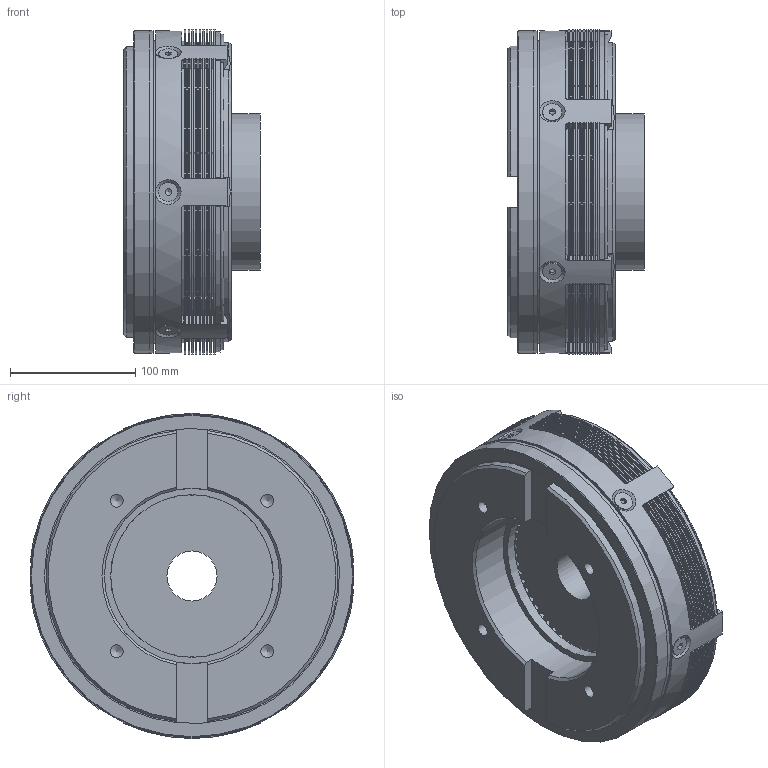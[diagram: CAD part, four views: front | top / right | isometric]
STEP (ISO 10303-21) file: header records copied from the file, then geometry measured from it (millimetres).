
FILE_DESCRIPTION(/* description */ (''),/* implementation_level */ '2;1');
FILE_NAME(/* name */ 'X:\INVENTOR\DISEGNI\05_Friz_Elettmag-Lam\05_02 ECF\05_02_260_01 ECF260\05_02_260_01 ECF260@STEP.stp',/* time_stamp */ '2017-07-12T14:15:10+02:00',/* author */ ('stefano'),/* organization */ (''),/* preprocessor_version */ 'ST-DEVELOPER v16.1',/* originating_system */ 'Autodesk Inventor 2016',/* authorisation */ '');
FILE_SCHEMA (('CONFIG_CONTROL_DESIGN'));
Products named in the file (1): 05_02_260_01 ECF260_Substitute_1
Bounding box: 109 x 259.05 x 260 mm (x, y, z)
Volume: 3434177.9 mm3; surface area: 1213808.8 mm2
Topology: 19 solids, 19 shells, 3774 faces, 11157 edges, 7407 vertices
Faces by surface type: cylinder 3092, plane 540, torus 114, cone 28
Full cylindrical faces by diameter (mm): 3 x12, 10.106 x4, 15.24 x6, 40 x1, 125 x1, 130 x1, 140 x1, 142 x2, 182 x1, 183 x1, 213 x1, 214 x1, 242 x1, 258 x3
Entity records: 135704 total; most frequent: CARTESIAN_POINT 25219, DIRECTION 24690, ORIENTED_EDGE 22154, EDGE_CURVE 11077, AXIS2_PLACEMENT_3D 10148, VERTEX_POINT 7387, CIRCLE 6337, LINE 4394
